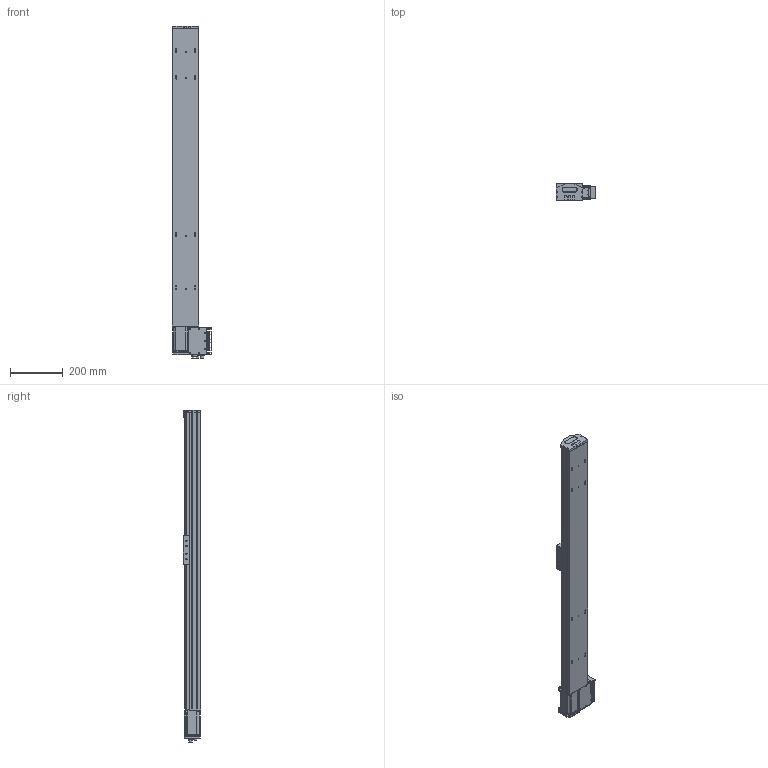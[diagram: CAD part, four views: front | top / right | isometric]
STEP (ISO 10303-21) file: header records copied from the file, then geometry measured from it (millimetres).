
FILE_DESCRIPTION (( 'STEP AP203' ), '1' );
FILE_NAME ('S 10 TSH MD S900.STEP', '2012-08-29T14:29:43', ( 'Conseil Régional Haute-Normandie' ), ( 'Conseil Régional Haute-Normandie' ), 'SwSTEP 2.0', 'SolidWorks 2010', '' );
FILE_SCHEMA (( 'CONFIG_CONTROL_DESIGN' ));
Length unit declared in the file: millimetre
Products named in the file (23): embout_modifié; piece_plastique remplieTSH_Default; S 10 TSH MD S900; axe1130_Default; palette tbn2; remplir_Default; Pièce2_Default; Assem1_7; T_X2_00F4_X0_le contre le moteur_5; BU41 Carte Alimentation P05_3; Colonnette_3; BU45 Carte d''axe A11_5; Moteur 60BLDC90A_3; Couvercle_3; T_X2_00F4_X0_le fond_3; Connecteur rond D10 3cts_5; Connecteur rond D12 4cts_5; Sub D 9cts 90_X2_00B_X0__3; Radiateur profil_X2_00E9_X0_ 100x25_3; Colonnette ronde_3; T_X2_00F4_X0_le Arri_X2_00E8_X0_re_5; T_X2_00F4_X0_le lat_X2_00E9_X0_rale_5; Vis TF 3 torkx_1_1
Assembly tree (47 placements, depth 3):
  S 10 TSH MD S900
    axe1130_Default
    piece_plastique remplieTSH_Default
      embout_modifié
      remplir_Default  x3
      Pièce2_Default
    palette tbn2
    Assem1_7
      Sub D 9cts 90_X2_00B_X0__3
      Colonnette ronde_3
      T_X2_00F4_X0_le lat_X2_00E9_X0_rale_5  x2
      Vis TF 3 torkx_1_1  x21
      T_X2_00F4_X0_le contre le moteur_5
      Connecteur rond D12 4cts_5
      Couvercle_3
      BU45 Carte d''axe A11_5
      Colonnette_3  x2
      Moteur 60BLDC90A_3
      Connecteur rond D10 3cts_5  x2
      BU41 Carte Alimentation P05_3
      Radiateur profil_X2_00E9_X0_ 100x25_3
      T_X2_00F4_X0_le fond_3
      T_X2_00F4_X0_le Arri_X2_00E8_X0_re_5
Bounding box: 148.26 x 66.75 x 1261.6 mm (x, y, z)
Volume: 6531866.8 mm3; surface area: 773949.3 mm2
Topology: 45 solids, 45 shells, 1724 faces, 4397 edges, 2862 vertices
Faces by surface type: plane 799, cylinder 772, cone 150, torus 3
Entity records: 36112 total; most frequent: CARTESIAN_POINT 6111, DIRECTION 5894, ORIENTED_EDGE 5370, EDGE_CURVE 2685, AXIS2_PLACEMENT_3D 2158, VERTEX_POINT 1762, VECTOR 1578, LINE 1578
